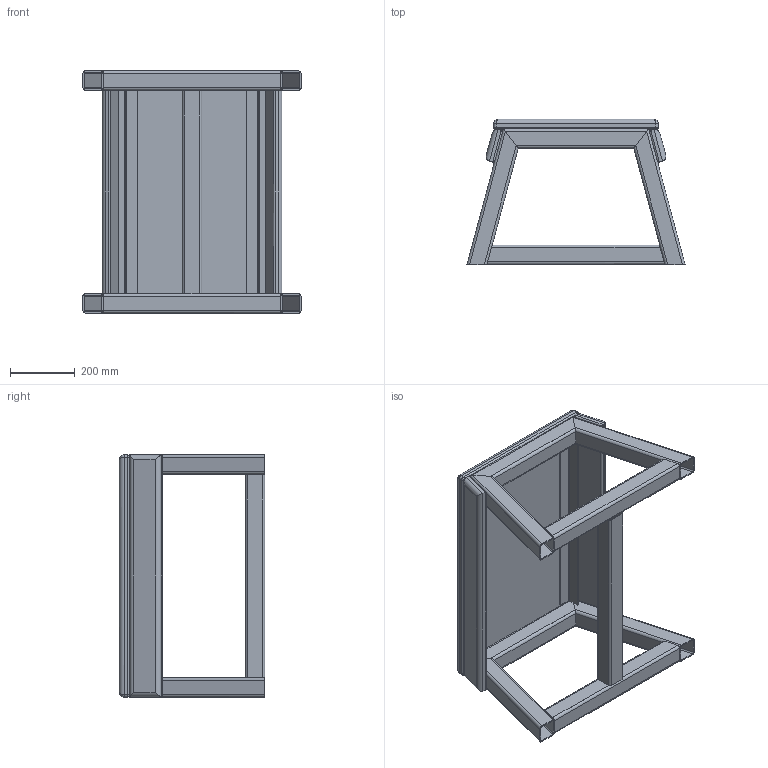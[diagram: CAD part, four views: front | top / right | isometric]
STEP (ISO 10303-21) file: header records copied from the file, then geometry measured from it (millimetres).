
FILE_DESCRIPTION(/* description */ (''),/* implementation_level */ '2;1');
FILE_NAME(/* name */ 'OGPB450_3D_Low.step',/* time_stamp */ '2025-11-11T16:11:14+02:00',/* author */ (''),/* organization */ (''),/* preprocessor_version */ 'ST-DEVELOPER v20.1',/* originating_system */ 'Autodesk Translation Framework v14.21.0.0',/* authorisation */ '');
FILE_SCHEMA (('AUTOMOTIVE_DESIGN { 1 0 10303 214 3 1 1 }'));
Length unit declared in the file: millimetre
Products named in the file (1): OGPB450_3D_Low
Bounding box: 675.17 x 450.18 x 750 mm (x, y, z)
Volume: 19531579.7 mm3; surface area: 3170853.5 mm2
Topology: 14 solids, 14 shells, 272 faces, 660 edges, 420 vertices
Faces by surface type: plane 140, cylinder 124, bspline 8
Full cylindrical faces by diameter (mm): 8.5 x8, 11 x4, 11.5 x8
Entity records: 8230 total; most frequent: CARTESIAN_POINT 1569, DIRECTION 1422, ORIENTED_EDGE 1312, EDGE_CURVE 656, AXIS2_PLACEMENT_3D 501, LINE 420, VECTOR 420, VERTEX_POINT 420
